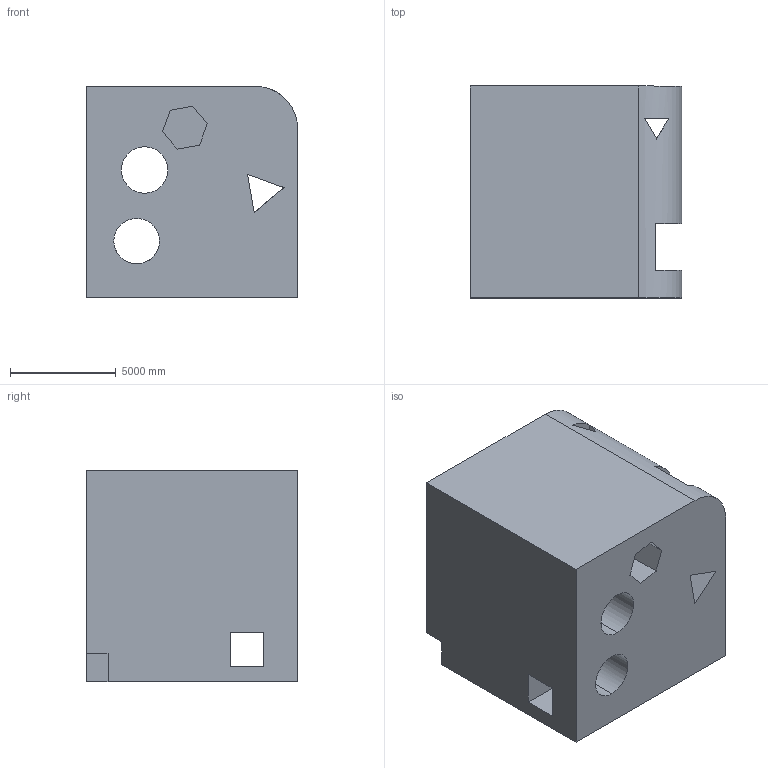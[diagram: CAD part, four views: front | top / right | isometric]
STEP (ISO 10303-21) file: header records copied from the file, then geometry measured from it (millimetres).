
FILE_DESCRIPTION (( 'STEP AP203' ), '1' );
FILE_NAME ('804.STEP', '2022-07-29T13:20:01', ( 'user' ), ( '' ), 'SwSTEP 2.0', 'SolidWorks 2021', '' );
FILE_SCHEMA (( 'CONFIG_CONTROL_DESIGN' ));
Length unit declared in the file: centimetre
Products named in the file (1): 804
Bounding box: 10000 x 10000 x 10000 mm (x, y, z)
Volume: 834357595151.6 mm3; surface area: 860329935.6 mm2
Topology: 1 solids, 1 shells, 38 faces, 123 edges, 82 vertices
Faces by surface type: plane 33, cylinder 5
Entity records: 1453 total; most frequent: CARTESIAN_POINT 250, ORIENTED_EDGE 246, DIRECTION 216, EDGE_CURVE 123, LINE 104, VECTOR 104, VERTEX_POINT 82, AXIS2_PLACEMENT_3D 56
